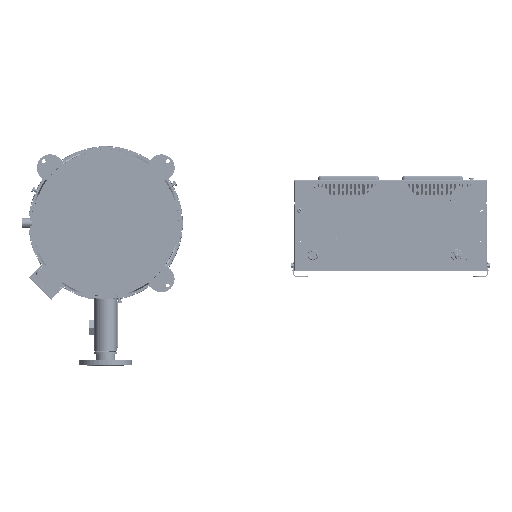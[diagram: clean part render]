
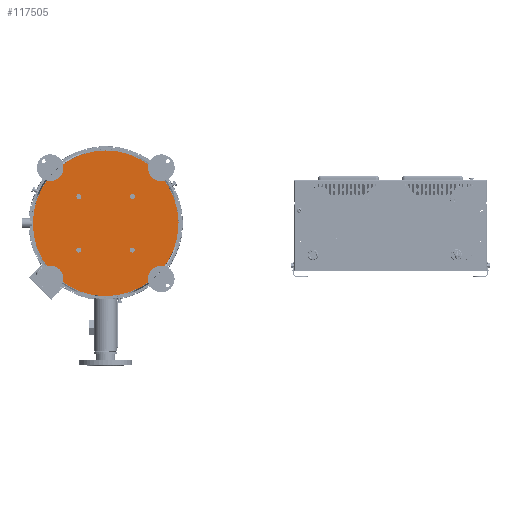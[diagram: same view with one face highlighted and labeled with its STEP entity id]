
A CAD part, front view. The second image highlights one B-rep face of the part: STEP entity #117505.
In plain terms, the highlighted planar face has unit normal (0, -1, 0).
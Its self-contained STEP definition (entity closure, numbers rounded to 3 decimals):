
#5955=FACE_BOUND('',#37396,.T.);
#5956=FACE_BOUND('',#37397,.T.);
#5957=FACE_BOUND('',#37398,.T.);
#5958=FACE_BOUND('',#37399,.T.);
#14427=LINE('',#204782,#24036);
#14428=LINE('',#204783,#24037);
#24036=VECTOR('',#156815,10.);
#24037=VECTOR('',#156816,10.);
#30198=FACE_OUTER_BOUND('',#37395,.T.);
#37395=EDGE_LOOP('',(#98140,#98141,#98142));
#37396=EDGE_LOOP('',(#98143));
#37397=EDGE_LOOP('',(#98144));
#37398=EDGE_LOOP('',(#98145));
#37399=EDGE_LOOP('',(#98146));
#43418=CIRCLE('',#128284,245.5);
#43419=CIRCLE('',#128286,8.5);
#43420=CIRCLE('',#128288,8.5);
#43421=CIRCLE('',#128290,8.5);
#43422=CIRCLE('',#128292,8.5);
#54255=VERTEX_POINT('',#204759);
#54256=VERTEX_POINT('',#204761);
#54257=VERTEX_POINT('',#204765);
#54258=VERTEX_POINT('',#204769);
#54259=VERTEX_POINT('',#204773);
#54260=VERTEX_POINT('',#204777);
#54261=VERTEX_POINT('',#204781);
#70287=EDGE_CURVE('',#54256,#54255,#43418,.T.);
#70290=EDGE_CURVE('',#54257,#54257,#43419,.T.);
#70292=EDGE_CURVE('',#54258,#54258,#43420,.T.);
#70294=EDGE_CURVE('',#54259,#54259,#43421,.T.);
#70296=EDGE_CURVE('',#54260,#54260,#43422,.T.);
#70297=EDGE_CURVE('',#54255,#54261,#14427,.T.);
#70298=EDGE_CURVE('',#54261,#54256,#14428,.T.);
#98140=ORIENTED_EDGE('',*,*,#70297,.T.);
#98141=ORIENTED_EDGE('',*,*,#70298,.T.);
#98142=ORIENTED_EDGE('',*,*,#70287,.T.);
#98143=ORIENTED_EDGE('',*,*,#70290,.T.);
#98144=ORIENTED_EDGE('',*,*,#70292,.T.);
#98145=ORIENTED_EDGE('',*,*,#70294,.T.);
#98146=ORIENTED_EDGE('',*,*,#70296,.T.);
#107249=PLANE('',#128293);
#117505=ADVANCED_FACE('',(#30198,#5955,#5956,#5957,#5958),#107249,.T.);
#128284=AXIS2_PLACEMENT_3D('',#204762,#156790,#156791);
#128286=AXIS2_PLACEMENT_3D('',#204767,#156796,#156797);
#128288=AXIS2_PLACEMENT_3D('',#204771,#156801,#156802);
#128290=AXIS2_PLACEMENT_3D('',#204775,#156806,#156807);
#128292=AXIS2_PLACEMENT_3D('',#204779,#156811,#156812);
#128293=AXIS2_PLACEMENT_3D('',#204780,#156813,#156814);
#156790=DIRECTION('center_axis',(0.,-1.,0.));
#156791=DIRECTION('ref_axis',(-1.,0.,
0.001));
#156796=DIRECTION('center_axis',(0.,1.,0.));
#156797=DIRECTION('ref_axis',(-1.,0.,
0.001));
#156801=DIRECTION('center_axis',(0.,1.,0.));
#156802=DIRECTION('ref_axis',(-0.001,0.,
-1.));
#156806=DIRECTION('center_axis',(0.,1.,0.));
#156807=DIRECTION('ref_axis',(0.001,0.,
1.));
#156811=DIRECTION('center_axis',(0.,1.,0.));
#156812=DIRECTION('ref_axis',(1.,0.,-0.001));
#156813=DIRECTION('center_axis',(0.,-1.,0.));
#156814=DIRECTION('ref_axis',(-1.,0.,
0.001));
#156815=DIRECTION('',(-0.706,0.,0.708));
#156816=DIRECTION('',(0.708,0.,0.706));
#204759=CARTESIAN_POINT('',(-5138.004,-6147.654,-411.991));
#204761=CARTESIAN_POINT('',(-5137.995,-6147.654,-406.027));
#204762=CARTESIAN_POINT('Origin',(-5383.481,-6147.654,-408.666));
#204765=CARTESIAN_POINT('',(-5284.699,-6147.654,-318.648));
#204767=CARTESIAN_POINT('Origin',(-5293.199,-6147.654,-318.636));
#204769=CARTESIAN_POINT('',(-5473.499,-6147.654,-309.884));
#204771=CARTESIAN_POINT('Origin',(-5473.511,-6147.654,-318.384));
#204773=CARTESIAN_POINT('',(-5293.463,-6147.654,-507.448));
#204775=CARTESIAN_POINT('Origin',(-5293.451,-6147.654,-498.948));
#204777=CARTESIAN_POINT('',(-5482.263,-6147.654,-498.684));
#204779=CARTESIAN_POINT('Origin',(-5473.763,-6147.654,-498.696));
#204780=CARTESIAN_POINT('Origin',(-5383.481,-6147.654,-408.666));
#204781=CARTESIAN_POINT('',(-5140.981,-6147.654,-409.005));
#204782=CARTESIAN_POINT('',(-5200.033,-6147.654,-349.788));
#204783=CARTESIAN_POINT('',(-5201.691,-6147.654,-469.545));
